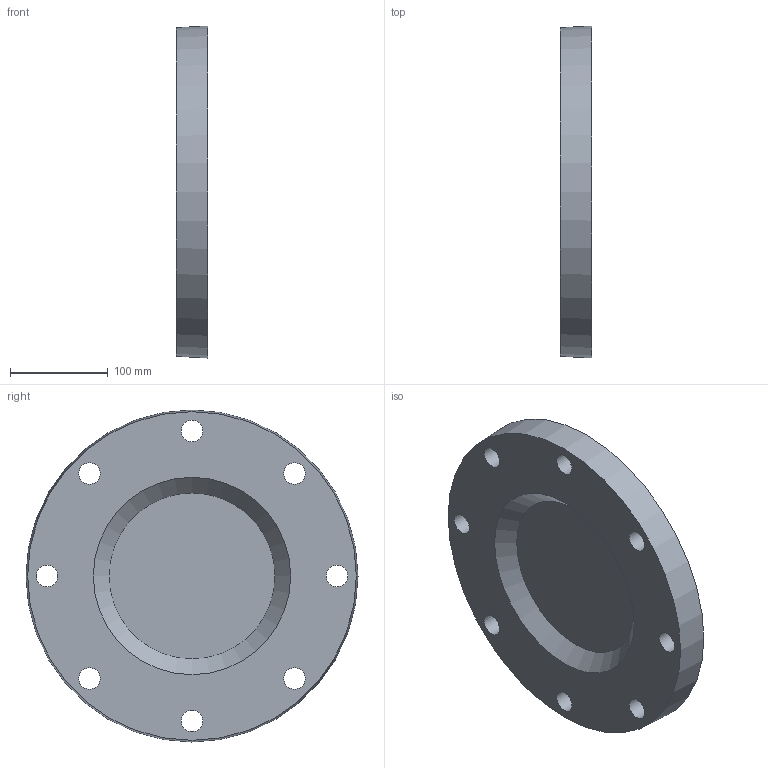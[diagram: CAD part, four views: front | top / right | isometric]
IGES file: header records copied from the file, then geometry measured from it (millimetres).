
Global section: file name: 059100225.ipt; native system: Autodesk Inventor 2015; preprocessor: unknown; author: KIM; date: 20171207.165936; units: millimetre
Bounding box: 32 x 340 x 340 mm (x, y, z)
Volume: 2341311.1 mm3; surface area: 231606.8 mm2
Topology: 1 solids, 1 shells, 25 faces, 50 edges, 34 vertices
Faces by surface type: revolution 12, plane 9, cylinder 3, cone 1
Full cylindrical faces by diameter (mm): 170 x1, 176.8 x1, 183.6 x1
